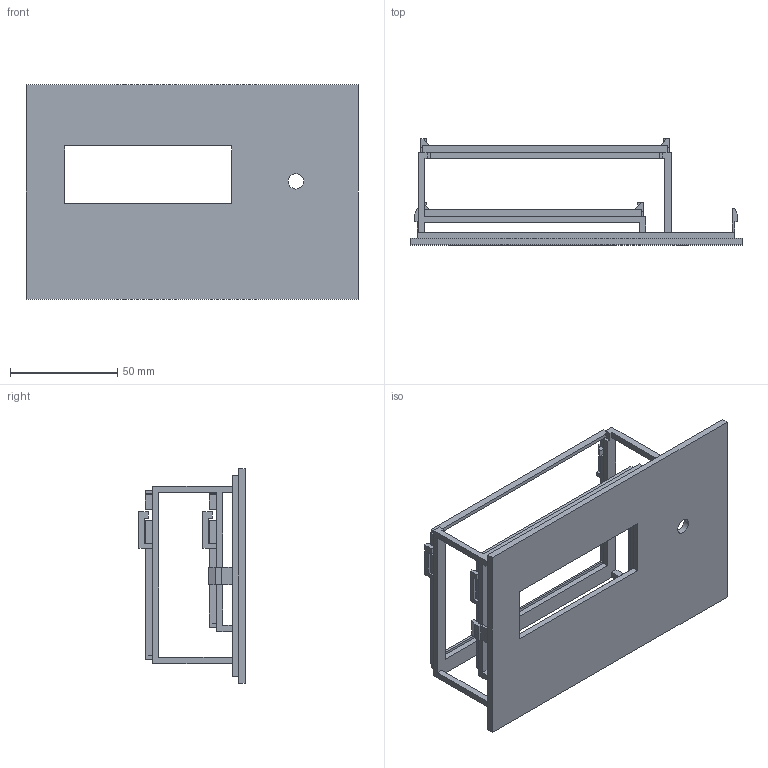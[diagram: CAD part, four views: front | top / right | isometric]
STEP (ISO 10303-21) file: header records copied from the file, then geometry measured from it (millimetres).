
FILE_DESCRIPTION(('Open CASCADE Model'),'2;1');
FILE_NAME('Open CASCADE Shape Model','2026-11-05T11:12:39',('Author'),( 'Open CASCADE'),'Open CASCADE STEP processor 7.8','Open CASCADE 7.8' ,'Unknown');
FILE_SCHEMA(('AUTOMOTIVE_DESIGN { 1 0 10303 214 1 1 1 1 }'));
Length unit declared in the file: millimetre
Products named in the file (1): Open CASCADE STEP translator 7.8 3
Bounding box: 155 x 49.6 x 100 mm (x, y, z)
Volume: 60081.4 mm3; surface area: 52525.5 mm2
Topology: 1 solids, 1 shells, 193 faces, 587 edges, 390 vertices
Faces by surface type: plane 192, cylinder 1
Full cylindrical faces by diameter (mm): 7.2 x1
Entity records: 13727 total; most frequent: CARTESIAN_POINT 2750, DIRECTION 1746, LINE 1352, VECTOR 1352, ORIENTED_EDGE 1174, PCURVE 1174, DEFINITIONAL_REPRESENTATION 1174, EDGE_CURVE 587
